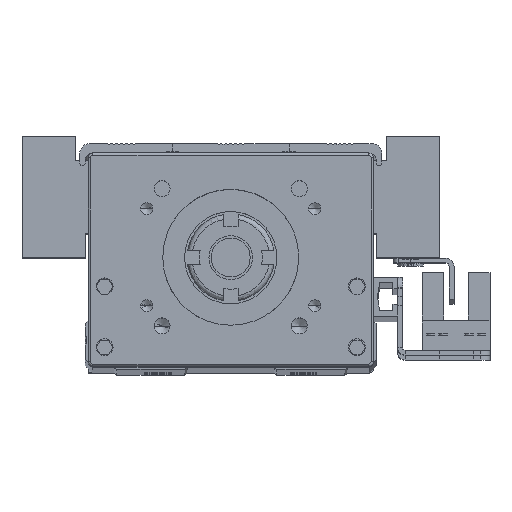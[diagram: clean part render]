
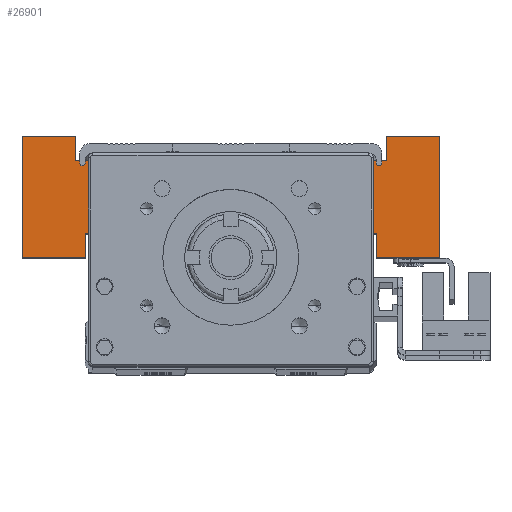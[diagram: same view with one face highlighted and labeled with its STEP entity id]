
A CAD part, top view. The second image highlights one B-rep face of the part: STEP entity #26901.
In plain terms, the highlighted planar face has unit normal (0, 0, 1) as drawn and (0, 1, 0) by its records, which use the part's own axes.
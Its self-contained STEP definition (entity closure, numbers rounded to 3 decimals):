
#892 = LINE ( 'NONE', #33613, #58783 ) ;
#2302 = LINE ( 'NONE', #59120, #66011 ) ;
#2475 = VECTOR ( 'NONE', #11012, 1000. ) ;
#3840 = DIRECTION ( 'NONE',  ( 0., 0., -1. ) ) ;
#3949 = DIRECTION ( 'NONE',  ( 0., 0., -1. ) ) ;
#4515 = CARTESIAN_POINT ( 'NONE',  ( -39.915, 18.194, 80.1 ) ) ;
#5105 = CARTESIAN_POINT ( 'NONE',  ( 24.085, 18.194, 80.1 ) ) ;
#5613 = EDGE_CURVE ( 'NONE', #68771, #60498, #64949, .T. ) ;
#6500 = CARTESIAN_POINT ( 'NONE',  ( 13.085, 18.194, 70.1 ) ) ;
#7057 = DIRECTION ( 'NONE',  ( 0., 0., 1. ) ) ;
#7329 = CARTESIAN_POINT ( 'NONE',  ( 13.085, 18.194, 70.1 ) ) ;
#7891 = VECTOR ( 'NONE', #21904, 1000. ) ;
#7917 = VERTEX_POINT ( 'NONE', #16317 ) ;
#9667 = CARTESIAN_POINT ( 'NONE',  ( -7.915, 18.194, 70.1 ) ) ;
#11012 = DIRECTION ( 'NONE',  ( 1., 0., 0. ) ) ;
#11186 = VECTOR ( 'NONE', #77168, 1000. ) ;
#12453 = DIRECTION ( 'NONE',  ( 1., 0., 0. ) ) ;
#13241 = DIRECTION ( 'NONE',  ( 1., 0., 0. ) ) ;
#13512 = EDGE_CURVE ( 'NONE', #42351, #44044, #892, .T. ) ;
#14028 = CARTESIAN_POINT ( 'NONE',  ( -28.915, 18.194, 70.1 ) ) ;
#14139 = CARTESIAN_POINT ( 'NONE',  ( 35.085, 18.194, 85.1 ) ) ;
#15058 = EDGE_LOOP ( 'NONE', ( #29589, #43194, #56079, #15512, #55876, #69715, #68505, #29962, #26170, #70841, #18465, #44106, #37280, #71359, #44063, #46996 ) ) ;
#15159 = EDGE_CURVE ( 'NONE', #51289, #42351, #32451, .T. ) ;
#15512 = ORIENTED_EDGE ( 'NONE', *, *, #77773, .F. ) ;
#16317 = CARTESIAN_POINT ( 'NONE',  ( 24.085, 18.194, 85.1 ) ) ;
#16703 = DIRECTION ( 'NONE',  ( 0., -1., 0. ) ) ;
#16773 = VERTEX_POINT ( 'NONE', #50273 ) ;
#17125 = VECTOR ( 'NONE', #44771, 1000. ) ;
#18465 = ORIENTED_EDGE ( 'NONE', *, *, #52494, .F. ) ;
#19238 = VERTEX_POINT ( 'NONE', #26934 ) ;
#21427 = VECTOR ( 'NONE', #42040, 1000. ) ;
#21625 = LINE ( 'NONE', #71605, #38005 ) ;
#21904 = DIRECTION ( 'NONE',  ( 0., 0., 1. ) ) ;
#22347 = LINE ( 'NONE', #60349, #21427 ) ;
#22534 = VECTOR ( 'NONE', #7057, 1000. ) ;
#23845 = CARTESIAN_POINT ( 'NONE',  ( -50.915, 18.194, 60.1 ) ) ;
#24441 = CARTESIAN_POINT ( 'NONE',  ( -37.915, 18.194, 60.1 ) ) ;
#24712 = EDGE_CURVE ( 'NONE', #51103, #71878, #21625, .T. ) ;
#26170 = ORIENTED_EDGE ( 'NONE', *, *, #55710, .F. ) ;
#26626 = LINE ( 'NONE', #64681, #11186 ) ;
#26901 = ADVANCED_FACE ( 'NONE', ( #41161 ), #53867, .F. ) ;
#26934 = CARTESIAN_POINT ( 'NONE',  ( -28.915, 18.194, 65.1 ) ) ;
#27626 = LINE ( 'NONE', #7329, #71096 ) ;
#29589 = ORIENTED_EDGE ( 'NONE', *, *, #67249, .F. ) ;
#29895 = CARTESIAN_POINT ( 'NONE',  ( 35.085, 18.194, 85.1 ) ) ;
#29962 = ORIENTED_EDGE ( 'NONE', *, *, #54331, .F. ) ;
#30079 = LINE ( 'NONE', #42968, #58998 ) ;
#31064 = VECTOR ( 'NONE', #78031, 1000. ) ;
#31423 = VECTOR ( 'NONE', #36438, 1000. ) ;
#32151 = VECTOR ( 'NONE', #55181, 1000. ) ;
#32451 = LINE ( 'NONE', #78836, #2475 ) ;
#33613 = CARTESIAN_POINT ( 'NONE',  ( 22.085, 18.194, 65.1 ) ) ;
#34297 = CARTESIAN_POINT ( 'NONE',  ( 24.085, 18.194, 85.1 ) ) ;
#34338 = DIRECTION ( 'NONE',  ( 0., 0., -1. ) ) ;
#35864 = VECTOR ( 'NONE', #54658, 1000. ) ;
#36182 = CARTESIAN_POINT ( 'NONE',  ( -37.915, 18.194, 65.1 ) ) ;
#36438 = DIRECTION ( 'NONE',  ( 0., 0., 1. ) ) ;
#37280 = ORIENTED_EDGE ( 'NONE', *, *, #56889, .F. ) ;
#37546 = CARTESIAN_POINT ( 'NONE',  ( 35.085, 18.194, 60.1 ) ) ;
#38005 = VECTOR ( 'NONE', #71329, 1000. ) ;
#38034 = CARTESIAN_POINT ( 'NONE',  ( -50.915, 18.194, 85.1 ) ) ;
#38260 = LINE ( 'NONE', #36182, #31423 ) ;
#38387 = VERTEX_POINT ( 'NONE', #5105 ) ;
#40622 = CARTESIAN_POINT ( 'NONE',  ( -37.915, 18.194, 60.1 ) ) ;
#41161 = FACE_OUTER_BOUND ( 'NONE', #15058, .T. ) ;
#41283 = EDGE_CURVE ( 'NONE', #16773, #72425, #72749, .T. ) ;
#41554 = EDGE_CURVE ( 'NONE', #72425, #7917, #52319, .T. ) ;
#42040 = DIRECTION ( 'NONE',  ( 1., 0., 0. ) ) ;
#42224 = VERTEX_POINT ( 'NONE', #62501 ) ;
#42351 = VERTEX_POINT ( 'NONE', #57862 ) ;
#42968 = CARTESIAN_POINT ( 'NONE',  ( 22.085, 18.194, 60.1 ) ) ;
#43194 = ORIENTED_EDGE ( 'NONE', *, *, #41554, .F. ) ;
#43789 = EDGE_CURVE ( 'NONE', #62636, #19238, #22347, .T. ) ;
#44044 = VERTEX_POINT ( 'NONE', #44402 ) ;
#44063 = ORIENTED_EDGE ( 'NONE', *, *, #24712, .F. ) ;
#44106 = ORIENTED_EDGE ( 'NONE', *, *, #5613, .F. ) ;
#44402 = CARTESIAN_POINT ( 'NONE',  ( 22.085, 18.194, 60.1 ) ) ;
#44771 = DIRECTION ( 'NONE',  ( -1., 0., 0. ) ) ;
#45164 = EDGE_CURVE ( 'NONE', #74083, #51289, #26626, .T. ) ;
#46996 = ORIENTED_EDGE ( 'NONE', *, *, #69280, .F. ) ;
#47078 = LINE ( 'NONE', #34297, #60584 ) ;
#48298 = AXIS2_PLACEMENT_3D ( 'NONE', #9667, #16703, #59511 ) ;
#50273 = CARTESIAN_POINT ( 'NONE',  ( 35.085, 18.194, 60.1 ) ) ;
#50376 = LINE ( 'NONE', #60848, #35864 ) ;
#51103 = VERTEX_POINT ( 'NONE', #4515 ) ;
#51289 = VERTEX_POINT ( 'NONE', #72771 ) ;
#52319 = LINE ( 'NONE', #29895, #31064 ) ;
#52494 = EDGE_CURVE ( 'NONE', #60498, #62636, #38260, .T. ) ;
#53867 = PLANE ( 'NONE',  #48298 ) ;
#54331 = EDGE_CURVE ( 'NONE', #42224, #74083, #27626, .T. ) ;
#54658 = DIRECTION ( 'NONE',  ( -1., 0., 0. ) ) ;
#55174 = LINE ( 'NONE', #14028, #7891 ) ;
#55181 = DIRECTION ( 'NONE',  ( 1., 0., 0. ) ) ;
#55710 = EDGE_CURVE ( 'NONE', #19238, #42224, #55174, .T. ) ;
#55876 = ORIENTED_EDGE ( 'NONE', *, *, #13512, .F. ) ;
#56079 = ORIENTED_EDGE ( 'NONE', *, *, #41283, .F. ) ;
#56889 = EDGE_CURVE ( 'NONE', #63025, #68771, #2302, .T. ) ;
#57862 = CARTESIAN_POINT ( 'NONE',  ( 22.085, 18.194, 65.1 ) ) ;
#58783 = VECTOR ( 'NONE', #3949, 1000. ) ;
#58998 = VECTOR ( 'NONE', #12453, 1000. ) ;
#59120 = CARTESIAN_POINT ( 'NONE',  ( -50.915, 18.194, 60.1 ) ) ;
#59511 = DIRECTION ( 'NONE',  ( 1., 0., 0. ) ) ;
#60349 = CARTESIAN_POINT ( 'NONE',  ( -28.915, 18.194, 65.1 ) ) ;
#60498 = VERTEX_POINT ( 'NONE', #40622 ) ;
#60584 = VECTOR ( 'NONE', #3840, 1000. ) ;
#60848 = CARTESIAN_POINT ( 'NONE',  ( -39.915, 18.194, 80.1 ) ) ;
#62501 = CARTESIAN_POINT ( 'NONE',  ( -28.915, 18.194, 70.1 ) ) ;
#62636 = VERTEX_POINT ( 'NONE', #77017 ) ;
#63025 = VERTEX_POINT ( 'NONE', #63949 ) ;
#63949 = CARTESIAN_POINT ( 'NONE',  ( -50.915, 18.194, 85.1 ) ) ;
#64681 = CARTESIAN_POINT ( 'NONE',  ( 13.085, 18.194, 70.1 ) ) ;
#64949 = LINE ( 'NONE', #24441, #32151 ) ;
#66011 = VECTOR ( 'NONE', #34338, 1000. ) ;
#67249 = EDGE_CURVE ( 'NONE', #7917, #38387, #47078, .T. ) ;
#68505 = ORIENTED_EDGE ( 'NONE', *, *, #45164, .F. ) ;
#68771 = VERTEX_POINT ( 'NONE', #23845 ) ;
#69280 = EDGE_CURVE ( 'NONE', #38387, #51103, #50376, .T. ) ;
#69715 = ORIENTED_EDGE ( 'NONE', *, *, #15159, .F. ) ;
#70841 = ORIENTED_EDGE ( 'NONE', *, *, #43789, .F. ) ;
#71096 = VECTOR ( 'NONE', #13241, 1000. ) ;
#71329 = DIRECTION ( 'NONE',  ( 0., 0., 1. ) ) ;
#71359 = ORIENTED_EDGE ( 'NONE', *, *, #79427, .F. ) ;
#71605 = CARTESIAN_POINT ( 'NONE',  ( -39.915, 18.194, 85.1 ) ) ;
#71878 = VERTEX_POINT ( 'NONE', #75279 ) ;
#72425 = VERTEX_POINT ( 'NONE', #14139 ) ;
#72749 = LINE ( 'NONE', #37546, #22534 ) ;
#72771 = CARTESIAN_POINT ( 'NONE',  ( 13.085, 18.194, 65.1 ) ) ;
#74083 = VERTEX_POINT ( 'NONE', #6500 ) ;
#75279 = CARTESIAN_POINT ( 'NONE',  ( -39.915, 18.194, 85.1 ) ) ;
#77017 = CARTESIAN_POINT ( 'NONE',  ( -37.915, 18.194, 65.1 ) ) ;
#77168 = DIRECTION ( 'NONE',  ( 0., 0., -1. ) ) ;
#77773 = EDGE_CURVE ( 'NONE', #44044, #16773, #30079, .T. ) ;
#78031 = DIRECTION ( 'NONE',  ( -1., 0., 0. ) ) ;
#78836 = CARTESIAN_POINT ( 'NONE',  ( 13.085, 18.194, 65.1 ) ) ;
#78960 = LINE ( 'NONE', #38034, #17125 ) ;
#79427 = EDGE_CURVE ( 'NONE', #71878, #63025, #78960, .T. ) ;
